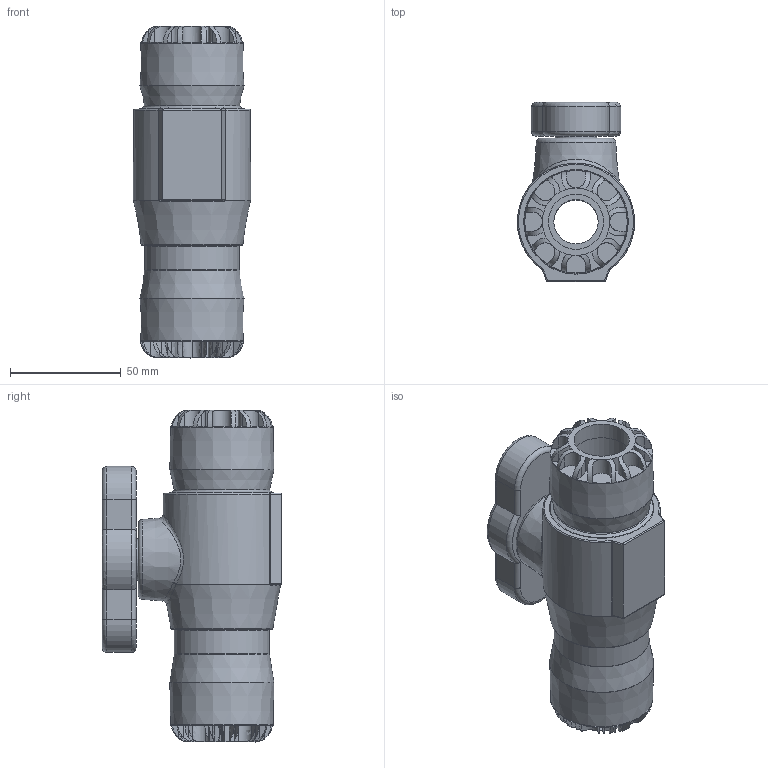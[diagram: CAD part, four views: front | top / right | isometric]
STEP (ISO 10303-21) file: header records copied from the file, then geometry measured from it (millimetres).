
FILE_DESCRIPTION(/* description */ ('PA Ball Valve Series 1 25mm x 25mm'),/* implementation_level */ '2;1');
FILE_NAME(/* name */ 'C:\Dropbox\99-16-3568-Processing\S1\037100\03710S00025_03710SF0025.stp',/* time_stamp */ '2022-04-18T16:19:35+03:00',/* author */ ('Lenora'),/* organization */ (''),/* preprocessor_version */ 'ST-DEVELOPER v17.2',/* originating_system */ 'Autodesk Inventor 2019',/* authorisation */ '');
FILE_SCHEMA (('AUTOMOTIVE_DESIGN { 1 0 10303 214 3 1 1 }'));
Length unit declared in the file: millimetre
Products named in the file (1): 03710S00025_03710SF0025
Bounding box: 52.94 x 81 x 150 mm (x, y, z)
Volume: 264046.7 mm3; surface area: 46936 mm2
Topology: 1 solids, 1 shells, 273 faces, 740 edges, 467 vertices
Faces by surface type: plane 122, cylinder 72, bspline 47, torus 25, cone 7
Full cylindrical faces by diameter (mm): 18.75 x1, 20 x1, 25 x2, 27 x2, 42.93 x1
Entity records: 11382 total; most frequent: CARTESIAN_POINT 4898, ORIENTED_EDGE 1440, DIRECTION 1247, EDGE_CURVE 720, AXIS2_PLACEMENT_3D 504, VERTEX_POINT 457, EDGE_LOOP 283, FACE_OUTER_BOUND 273
